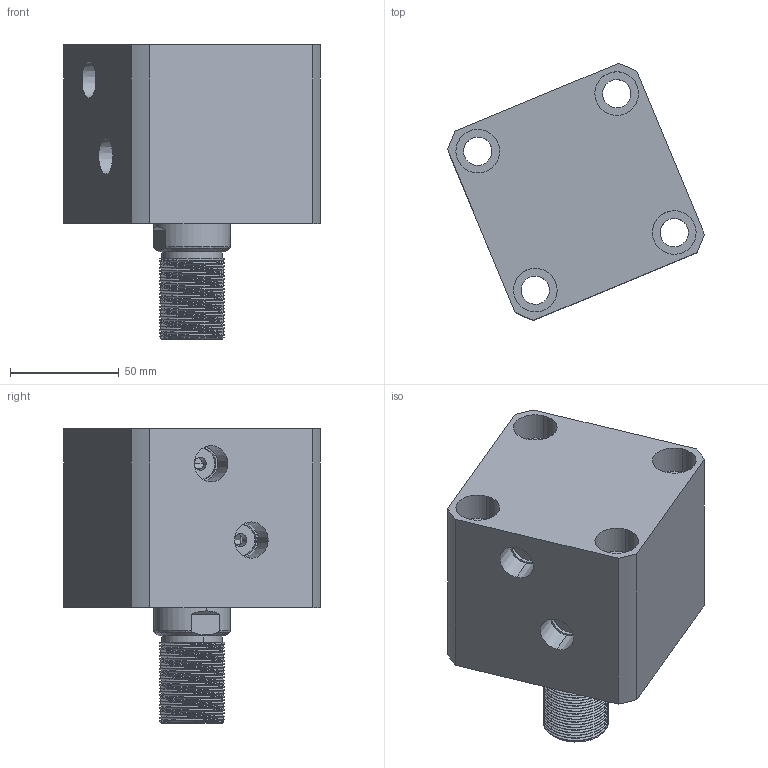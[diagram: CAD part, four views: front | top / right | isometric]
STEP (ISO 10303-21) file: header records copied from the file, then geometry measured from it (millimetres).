
FILE_DESCRIPTION (( 'STEP AP214' ), '1' );
FILE_NAME ('chtb-sd63x15w_asm.STEP', '2018-05-19T01:53:30', ( 'Windows' ), ( 'Microsoft' ), 'SwSTEP 2.0', 'SolidWorks 2015', '' );
FILE_SCHEMA (( 'AUTOMOTIVE_DESIGN' ));
Length unit declared in the file: millimetre
Products named in the file (4): CHTB63X15WHSG; CHTB63X15NBT; CHTB-63QG; chtb-sd63x15w_asm
Assembly tree (3 placements, depth 2):
  chtb-sd63x15w_asm
    CHTB-63QG
    CHTB63X15NBT
    CHTB63X15WHSG
Bounding box: 117.81 x 117.81 x 135 mm (x, y, z)
Volume: 657488.5 mm3; surface area: 120397.3 mm2
Topology: 3 solids, 3 shells, 219 faces, 625 edges, 427 vertices
Faces by surface type: cylinder 150, plane 36, bspline 14, cone 13, torus 6
Entity records: 22208 total; most frequent: CARTESIAN_POINT 16953, ORIENTED_EDGE 1242, DIRECTION 881, EDGE_CURVE 621, VERTEX_POINT 427, AXIS2_PLACEMENT_3D 346, EDGE_LOOP 252, FACE_OUTER_BOUND 219
